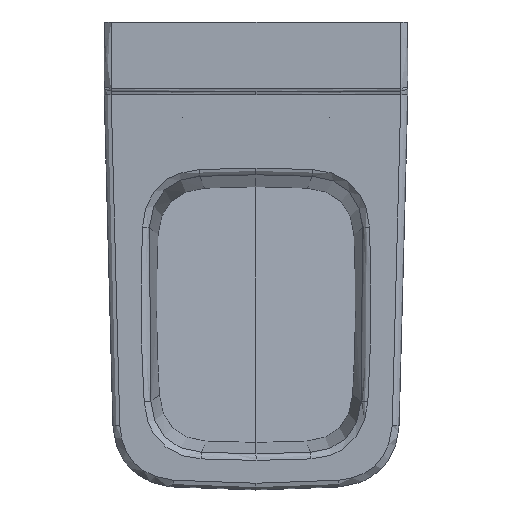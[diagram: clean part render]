
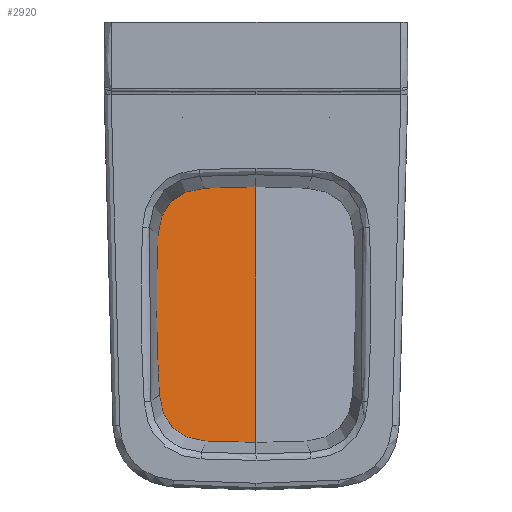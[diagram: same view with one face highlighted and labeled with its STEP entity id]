
A CAD part, top view. The second image highlights one B-rep face of the part: STEP entity #2920.
In plain terms, the highlighted planar face has unit normal (0, 0.069, 0.998).
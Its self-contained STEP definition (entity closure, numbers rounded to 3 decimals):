
#107=PLANE('',#3114);
#149=LINE('',#13254,#202);
#202=VECTOR('',#3378,295.871);
#307=FACE_OUTER_BOUND('',#506,.T.);
#506=EDGE_LOOP('',(#2083,#2084,#2085,#2086,#2087,#2088));
#615=B_SPLINE_CURVE_WITH_KNOTS('',3,(#4315,#4316,#4317,#4318,#4319),
 .UNSPECIFIED.,.F.,.F.,(4,1,4),(0.,0.5,1.),.UNSPECIFIED.);
#617=B_SPLINE_CURVE_WITH_KNOTS('',3,(#4396,#4397,#4398,#4399,#4400,#4401,
#4402),.UNSPECIFIED.,.F.,.F.,(4,1,1,1,4),(0.,0.123,0.369,
0.737,1.),.UNSPECIFIED.);
#672=B_SPLINE_CURVE_WITH_KNOTS('',3,(#10415,#10416,#10417,#10418,#10419),
 .UNSPECIFIED.,.F.,.F.,(4,1,4),(0.,0.5,1.),.UNSPECIFIED.);
#674=B_SPLINE_CURVE_WITH_KNOTS('',3,(#10516,#10517,#10518,#10519,#10520,
#10521,#10522),.UNSPECIFIED.,.F.,.F.,(4,1,1,1,4),(0.,0.281,
0.641,0.88,1.),.UNSPECIFIED.);
#875=ELLIPSE('',#3064,1292.301,918.226);
#996=VERTEX_POINT('',#4309);
#997=VERTEX_POINT('',#4314);
#998=VERTEX_POINT('',#4394);
#1063=VERTEX_POINT('',#10352);
#1064=VERTEX_POINT('',#10414);
#1065=VERTEX_POINT('',#10515);
#1285=EDGE_CURVE('',#996,#997,#615,.T.);
#1288=EDGE_CURVE('',#998,#996,#617,.T.);
#1380=EDGE_CURVE('',#997,#1063,#875,.T.);
#1382=EDGE_CURVE('',#1063,#1064,#672,.T.);
#1384=EDGE_CURVE('',#1064,#1065,#674,.T.);
#1467=EDGE_CURVE('',#998,#1065,#149,.T.);
#2083=ORIENTED_EDGE('',*,*,#1384,.F.);
#2084=ORIENTED_EDGE('',*,*,#1382,.F.);
#2085=ORIENTED_EDGE('',*,*,#1380,.F.);
#2086=ORIENTED_EDGE('',*,*,#1285,.F.);
#2087=ORIENTED_EDGE('',*,*,#1288,.F.);
#2088=ORIENTED_EDGE('',*,*,#1467,.T.);
#2920=ADVANCED_FACE('',(#307),#107,.F.);
#3064=AXIS2_PLACEMENT_3D('',#10353,#3265,#3266);
#3114=AXIS2_PLACEMENT_3D('',#13291,#3382,#3383);
#3265=DIRECTION('center_axis',(0.,-0.069,
-0.998));
#3266=DIRECTION('ref_axis',(-0.008,0.998,-0.069));
#3378=DIRECTION('',(0.,0.998,-0.069));
#3382=DIRECTION('center_axis',(0.,-0.069,
-0.998));
#3383=DIRECTION('ref_axis',(0.,0.998,-0.069));
#4309=CARTESIAN_POINT('',(-58.028,-483.663,356.435));
#4314=CARTESIAN_POINT('',(-111.579,-429.838,352.731));
#4315=CARTESIAN_POINT('Ctrl Pts',(-58.028,-483.663,356.435));
#4316=CARTESIAN_POINT('Ctrl Pts',(-74.248,-482.807,356.376));
#4317=CARTESIAN_POINT('Ctrl Pts',(-100.214,-471.98,355.631));
#4318=CARTESIAN_POINT('Ctrl Pts',(-110.626,-445.949,353.839));
#4319=CARTESIAN_POINT('Ctrl Pts',(-111.579,-429.838,352.731));
#4394=CARTESIAN_POINT('',(0.,-485.212,356.542));
#4396=CARTESIAN_POINT('Ctrl Pts',(0.,-485.212,
356.542));
#4397=CARTESIAN_POINT('Ctrl Pts',(-2.374,-485.212,356.542));
#4398=CARTESIAN_POINT('Ctrl Pts',(-9.497,-485.188,356.54));
#4399=CARTESIAN_POINT('Ctrl Pts',(-23.752,-484.996,356.527));
#4400=CARTESIAN_POINT('Ctrl Pts',(-40.733,-484.49,356.492));
#4401=CARTESIAN_POINT('Ctrl Pts',(-52.948,-483.93,356.454));
#4402=CARTESIAN_POINT('Ctrl Pts',(-58.028,-483.663,356.435));
#10352=CARTESIAN_POINT('',(-113.07,-245.489,340.042));
#10353=CARTESIAN_POINT('Origin',(803.521,-330.279,345.878));
#10414=CARTESIAN_POINT('',(-59.514,-191.669,336.337));
#10415=CARTESIAN_POINT('Ctrl Pts',(-113.07,-245.489,
340.042));
#10416=CARTESIAN_POINT('Ctrl Pts',(-112.377,-229.37,
338.932));
#10417=CARTESIAN_POINT('Ctrl Pts',(-101.701,-203.352,
337.141));
#10418=CARTESIAN_POINT('Ctrl Pts',(-75.733,-192.546,
336.398));
#10419=CARTESIAN_POINT('Ctrl Pts',(-59.514,-191.669,
336.337));
#10515=CARTESIAN_POINT('',(0.,-190.04,336.225));
#10516=CARTESIAN_POINT('Ctrl Pts',(-59.514,-191.669,
336.337));
#10517=CARTESIAN_POINT('Ctrl Pts',(-53.94,-191.368,
336.316));
#10518=CARTESIAN_POINT('Ctrl Pts',(-41.229,-190.777,
336.276));
#10519=CARTESIAN_POINT('Ctrl Pts',(-23.752,-190.256,
336.24));
#10520=CARTESIAN_POINT('Ctrl Pts',(-9.497,-190.064,
336.227));
#10521=CARTESIAN_POINT('Ctrl Pts',(-2.374,-190.04,
336.225));
#10522=CARTESIAN_POINT('Ctrl Pts',(0.,-190.04,
336.225));
#13254=CARTESIAN_POINT('',(0.,-485.212,356.542));
#13291=CARTESIAN_POINT('Origin',(0.,-485.212,
356.542));
